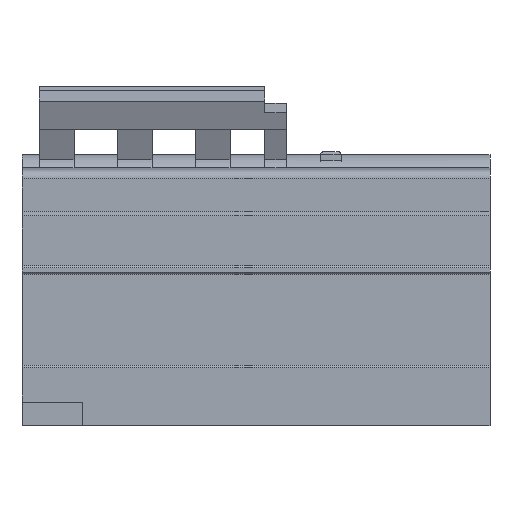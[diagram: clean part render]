
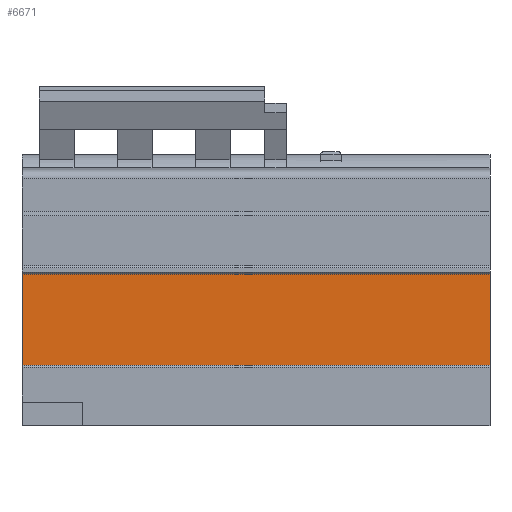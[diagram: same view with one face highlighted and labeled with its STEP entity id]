
A CAD part, front view. The second image highlights one B-rep face of the part: STEP entity #6671.
In plain terms, the highlighted planar face has unit normal (0, -1, 0).
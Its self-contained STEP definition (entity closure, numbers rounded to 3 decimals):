
#220=LINE('',#9545,#813);
#466=LINE('',#11215,#1059);
#536=LINE('',#11399,#1129);
#537=LINE('',#11401,#1130);
#813=VECTOR('',#7634,10.);
#1059=VECTOR('',#8382,10.);
#1129=VECTOR('',#8584,10.);
#1130=VECTOR('',#8587,10.);
#1545=PLANE('',#7230);
#2011=FACE_OUTER_BOUND('',#2478,.T.);
#2478=EDGE_LOOP('',(#5546,#5547,#5548,#5549));
#2934=VERTEX_POINT('',#9542);
#2935=VERTEX_POINT('',#9544);
#3245=VERTEX_POINT('',#11212);
#3246=VERTEX_POINT('',#11214);
#3579=EDGE_CURVE('',#2934,#2935,#220,.T.);
#4008=EDGE_CURVE('',#3246,#3245,#466,.T.);
#4100=EDGE_CURVE('',#3245,#2935,#536,.T.);
#4101=EDGE_CURVE('',#3246,#2934,#537,.T.);
#5546=ORIENTED_EDGE('',*,*,#4008,.T.);
#5547=ORIENTED_EDGE('',*,*,#4100,.T.);
#5548=ORIENTED_EDGE('',*,*,#3579,.F.);
#5549=ORIENTED_EDGE('',*,*,#4101,.F.);
#6671=ADVANCED_FACE('',(#2011),#1545,.T.);
#7230=AXIS2_PLACEMENT_3D('',#11400,#8585,#8586);
#7634=DIRECTION('',(0.,0.,-1.));
#8382=DIRECTION('',(0.,0.,-1.));
#8584=DIRECTION('',(1.,0.,0.));
#8585=DIRECTION('center_axis',(0.,-1.,0.));
#8586=DIRECTION('ref_axis',(0.,0.,-1.));
#8587=DIRECTION('',(1.,0.,0.));
#9542=CARTESIAN_POINT('',(108.,-9.653,-21.84));
#9544=CARTESIAN_POINT('',(108.,-9.653,-42.84));
#9545=CARTESIAN_POINT('',(108.,-9.653,-21.84));
#11212=CARTESIAN_POINT('',(0.,-9.653,-42.84));
#11214=CARTESIAN_POINT('',(0.,-9.653,-21.84));
#11215=CARTESIAN_POINT('',(0.,-9.653,-21.84));
#11399=CARTESIAN_POINT('',(0.,-9.653,-42.84));
#11400=CARTESIAN_POINT('Origin',(0.,-9.653,-21.84));
#11401=CARTESIAN_POINT('',(0.,-9.653,-21.84));
